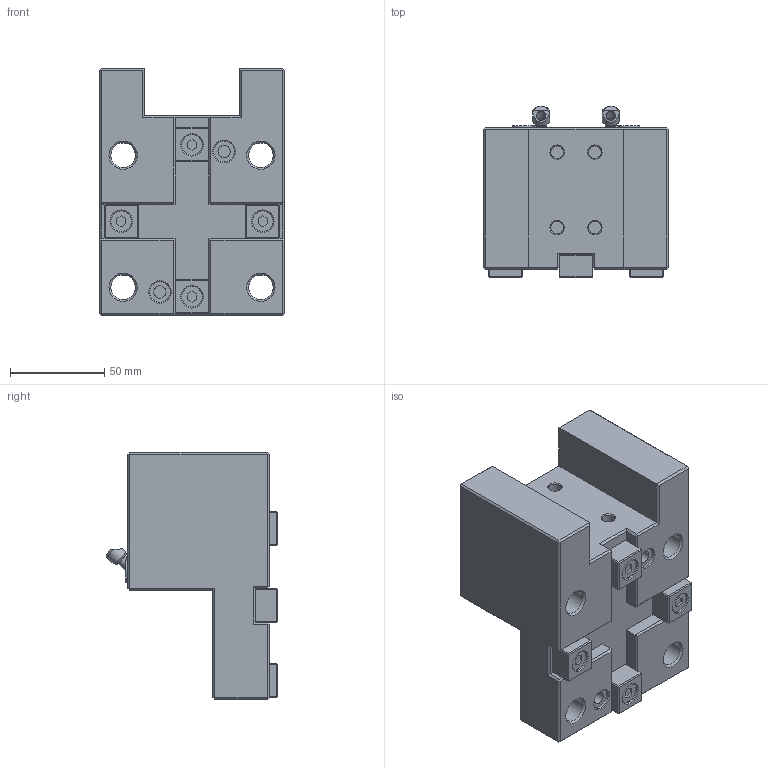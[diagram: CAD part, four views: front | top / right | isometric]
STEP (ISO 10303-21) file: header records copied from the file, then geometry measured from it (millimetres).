
FILE_DESCRIPTION(/* description */ (''),/* implementation_level */ '2;1');
FILE_NAME(/* name */ '',/* time_stamp */ '2025-10-09T15:12:50+03:00',/* author */ ('User'),/* organization */ (''),/* preprocessor_version */ 'ST-DEVELOPER v19.2',/* originating_system */ 'Autodesk Inventor 2024',/* authorisation */ '');
FILE_SCHEMA (('AUTOMOTIVE_DESIGN { 1 0 10303 214 3 1 1 }'));
Length unit declared in the file: millimetre
Products named in the file (1): Держатель токарного 
инструмента BMT55-C8025 , стационарный,
 наружный, радиальный
Bounding box: 98 x 90.99 x 131 mm (x, y, z)
Volume: 560634.8 mm3; surface area: 72105.9 mm2
Topology: 3 solids, 3 shells, 324 faces, 750 edges, 460 vertices
Faces by surface type: plane 258, cylinder 40, cone 22, sphere 4
Full cylindrical faces by diameter (mm): 4.917 x2, 5 x2, 6 x4, 6.5 x2, 6.647 x4, 7.5 x2, 9 x2, 11 x6, 11.5 x2, 12 x2, 13 x4, 20 x4
Entity records: 9633 total; most frequent: CARTESIAN_POINT 1820, DIRECTION 1518, ORIENTED_EDGE 1496, EDGE_CURVE 748, LINE 574, VECTOR 574, AXIS2_PLACEMENT_3D 472, VERTEX_POINT 460
